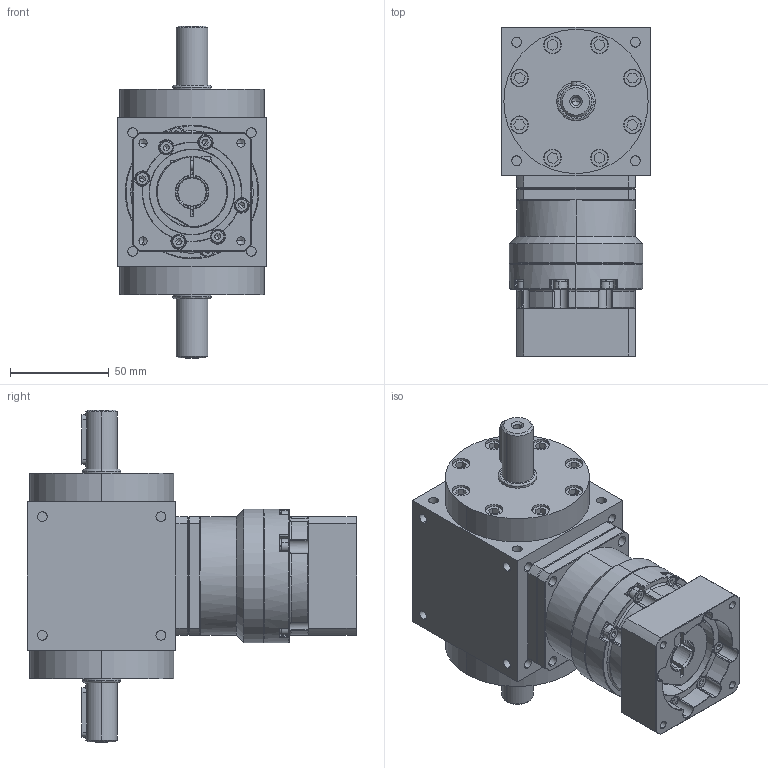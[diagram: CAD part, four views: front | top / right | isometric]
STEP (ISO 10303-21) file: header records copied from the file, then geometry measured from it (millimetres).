
FILE_DESCRIPTION (( 'STEP AP203' ), '1' );
FILE_NAME ('AT075-FL-L1 14-50-70-M5.STEP', '2024-12-19T05:39:23', ( '' ), ( '' ), 'SwSTEP 2.0', 'SolidWorks 2021', '' );
FILE_SCHEMA (( 'CONFIG_CONTROL_DESIGN' ));
Length unit declared in the file: millimetre
Products named in the file (3): VRB-060-L1-S2-P1 14-50-70-M5; AT075-FL-L1 14-50-70-M5; AT075-FL
Assembly tree (2 placements, depth 2):
  AT075-FL-L1 14-50-70-M5
    AT075-FL
    VRB-060-L1-S2-P1 14-50-70-M5
Bounding box: 75 x 166.5 x 168 mm (x, y, z)
Volume: 810111.2 mm3; surface area: 122182.9 mm2
Topology: 33 solids, 33 shells, 1486 faces, 3673 edges, 2302 vertices
Faces by surface type: plane 606, cylinder 582, cone 228, torus 54, bspline 16
Entity records: 44966 total; most frequent: CARTESIAN_POINT 9421, DIRECTION 7674, ORIENTED_EDGE 7222, EDGE_CURVE 3611, AXIS2_PLACEMENT_3D 2988, VERTEX_POINT 2302, LINE 1698, VECTOR 1698
